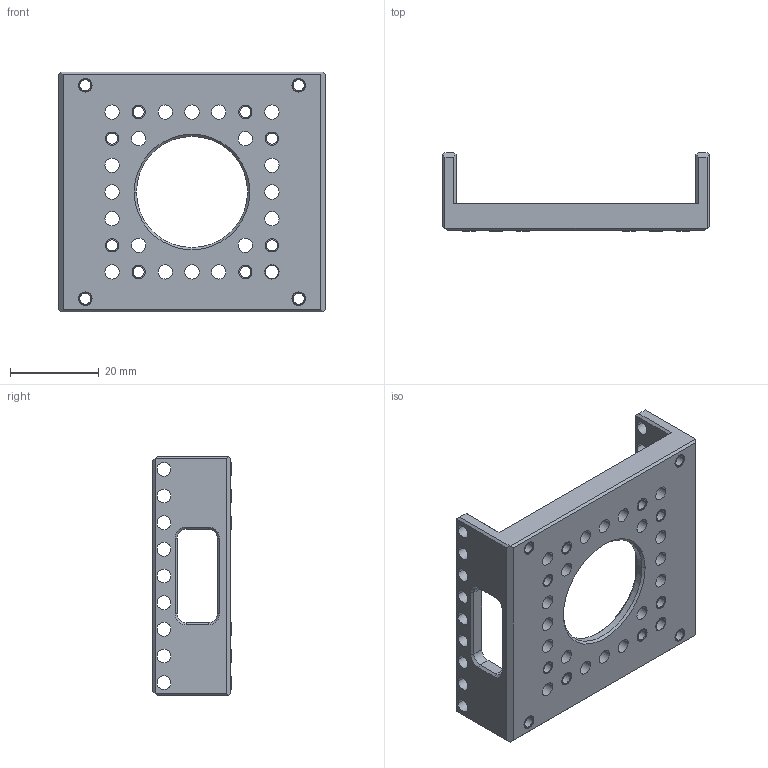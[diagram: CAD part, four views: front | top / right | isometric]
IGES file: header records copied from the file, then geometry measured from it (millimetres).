
Start section:  PTC IGES file: FRP54-A110.igs
Global section: file name: FRP54-A110.igs; native system: Pro/ENGINEER by Parametric Technology Corporation; preprocessor: 2011220; author: JK; organization: Unknown; date: 20130820.115213; units: millimetre
Bounding box: 60 x 17.62 x 54 mm (x, y, z)
Volume: 10962.6 mm3; surface area: 14405 mm2
Topology: 1 solids, 14 shells, 236 faces, 930 edges, 956 vertices
Faces by surface type: revolution 186, bspline 50
